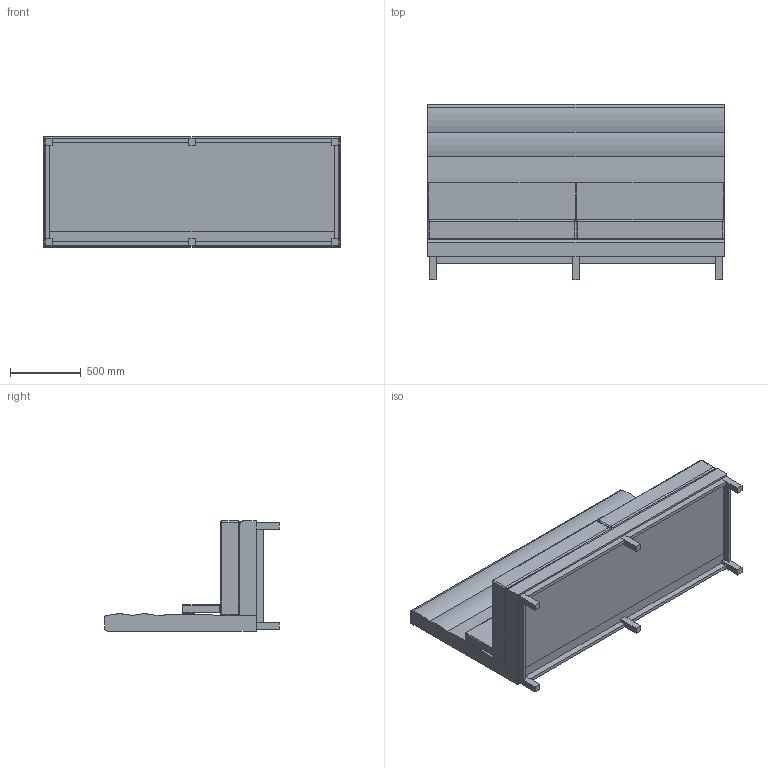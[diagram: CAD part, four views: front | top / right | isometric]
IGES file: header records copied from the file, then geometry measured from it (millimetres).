
Start section: SolidWorks IGES file using analytic representation for surfaces
Global section: file name: P:\3D CAD BLOCKS\ARTHUR CITYSCAPE\HB Bumped Large Armless\IGS\ART-HB-BUMP-LRG-ART-CITY-ARMLESS.IGS; native system: SolidWorks 2012; preprocessor: SolidWorks 2012; author: tom; date: 160523.091143; units: millimetre
Bounding box: 2100 x 1240 x 780 mm (x, y, z)
Surface area: 14742724.6 mm2 (no closed solid volume)
Topology: 0 solids, 0 shells, 199 faces, 964 edges, 952 vertices
Faces by surface type: bspline 108, revolution 91
